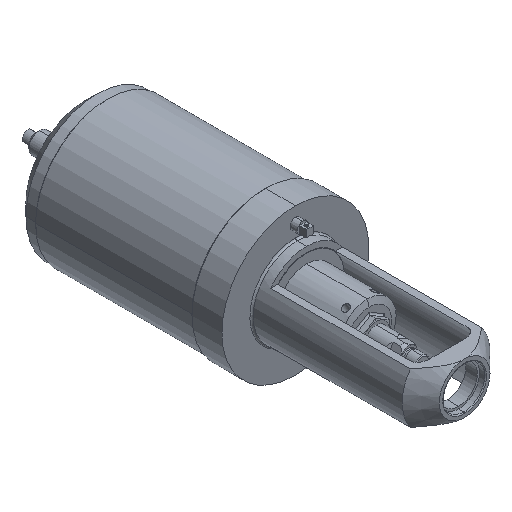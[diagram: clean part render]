
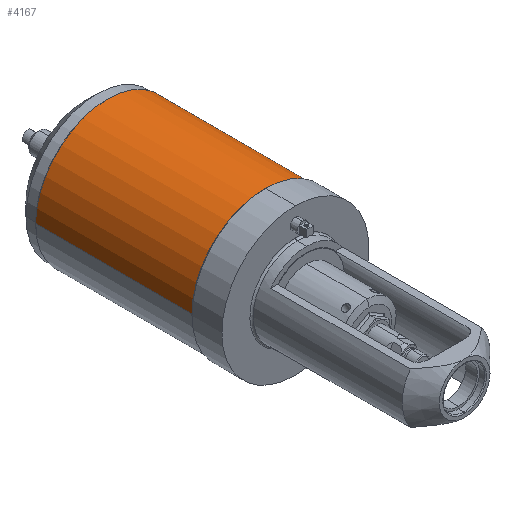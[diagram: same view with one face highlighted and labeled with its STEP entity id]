
A CAD part, isometric view. The second image highlights one B-rep face of the part: STEP entity #4167.
In plain terms, the highlighted cylindrical face has radius 65.57 mm (diameter 131.14 mm), a partial arc.
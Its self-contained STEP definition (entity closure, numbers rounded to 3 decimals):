
#20 = EDGE_CURVE ( 'NONE', #6165, #2261, #3542, .T. ) ;
#21 = EDGE_CURVE ( 'NONE', #2261, #2305, #3543, .T. ) ;
#22 = EDGE_CURVE ( 'NONE', #2305, #2266, #3539, .T. ) ;
#23 = EDGE_CURVE ( 'NONE', #6173, #2266, #3540, .T. ) ;
#24 = EDGE_CURVE ( 'NONE', #6173, #6165, #3536, .T. ) ;
#335 = CYLINDRICAL_SURFACE ( 'NONE', #3803, 65.57 ) ;
#336 = FACE_OUTER_BOUND ( 'NONE', #3292, .T. ) ;
#1108 = DIRECTION ( 'NONE',  ( -1., 0., 0. ) ) ;
#1112 = DIRECTION ( 'NONE',  ( 0., 1., 0. ) ) ;
#1115 = CARTESIAN_POINT ( 'NONE',  ( 0., 183.588, 0. ) ) ;
#1120 = DIRECTION ( 'NONE',  ( 0., 1., 0. ) ) ;
#1124 = CARTESIAN_POINT ( 'NONE',  ( -65.57, 326.542, 0. ) ) ;
#1130 = DIRECTION ( 'NONE',  ( -1., 0., 0. ) ) ;
#1133 = DIRECTION ( 'NONE',  ( 0., -1., 0. ) ) ;
#1137 = CARTESIAN_POINT ( 'NONE',  ( 0., 326.542, 0. ) ) ;
#1143 = DIRECTION ( 'NONE',  ( 0., 1., 0. ) ) ;
#1147 = CARTESIAN_POINT ( 'NONE',  ( 65.57, 326.542, 0. ) ) ;
#1157 = DIRECTION ( 'NONE',  ( -1., 0., 0. ) ) ;
#1160 = DIRECTION ( 'NONE',  ( 0., 1., 0. ) ) ;
#1163 = CARTESIAN_POINT ( 'NONE',  ( 0., 183.588, 0. ) ) ;
#2261 = VERTEX_POINT ( 'NONE', #4434 ) ;
#2266 = VERTEX_POINT ( 'NONE', #4429 ) ;
#2305 = VERTEX_POINT ( 'NONE', #4390 ) ;
#2962 = ORIENTED_EDGE ( 'NONE', *, *, #20, .T. ) ;
#2963 = ORIENTED_EDGE ( 'NONE', *, *, #21, .T. ) ;
#2964 = ORIENTED_EDGE ( 'NONE', *, *, #22, .T. ) ;
#2965 = ORIENTED_EDGE ( 'NONE', *, *, #23, .F. ) ;
#2966 = ORIENTED_EDGE ( 'NONE', *, *, #24, .T. ) ;
#3292 = EDGE_LOOP ( 'NONE', ( #2962, #2963, #2964, #2965, #2966 ) ) ;
#3536 = CIRCLE ( 'NONE', #4143, 65.57 ) ;
#3538 = VECTOR ( 'NONE', #1120, 1000. ) ;
#3539 = CIRCLE ( 'NONE', #4144, 65.57 ) ;
#3540 = LINE ( 'NONE', #1124, #3538 ) ;
#3541 = VECTOR ( 'NONE', #1143, 1000. ) ;
#3542 = CIRCLE ( 'NONE', #4145, 65.57 ) ;
#3543 = LINE ( 'NONE', #1147, #3541 ) ;
#3803 = AXIS2_PLACEMENT_3D ( 'NONE', #4275, #4274, #4273 ) ;
#4143 = AXIS2_PLACEMENT_3D ( 'NONE', #1115, #1112, #1108 ) ;
#4144 = AXIS2_PLACEMENT_3D ( 'NONE', #1137, #1133, #1130 ) ;
#4145 = AXIS2_PLACEMENT_3D ( 'NONE', #1163, #1160, #1157 ) ;
#4167 = ADVANCED_FACE ( 'NONE', ( #336 ), #335, .T. ) ;
#4273 = DIRECTION ( 'NONE',  ( -1., 0., 0. ) ) ;
#4274 = DIRECTION ( 'NONE',  ( 0., 1., 0. ) ) ;
#4275 = CARTESIAN_POINT ( 'NONE',  ( 0., 326.542, 0. ) ) ;
#4390 = CARTESIAN_POINT ( 'NONE',  ( 65.57, 326.542, 0. ) ) ;
#4429 = CARTESIAN_POINT ( 'NONE',  ( -65.57, 326.542, 0. ) ) ;
#4434 = CARTESIAN_POINT ( 'NONE',  ( 65.57, 183.588, 0. ) ) ;
#4696 = CARTESIAN_POINT ( 'NONE',  ( -65.57, 183.588, 0. ) ) ;
#4704 = CARTESIAN_POINT ( 'NONE',  ( 0., 183.588, 65.57 ) ) ;
#6165 = VERTEX_POINT ( 'NONE', #4704 ) ;
#6173 = VERTEX_POINT ( 'NONE', #4696 ) ;
